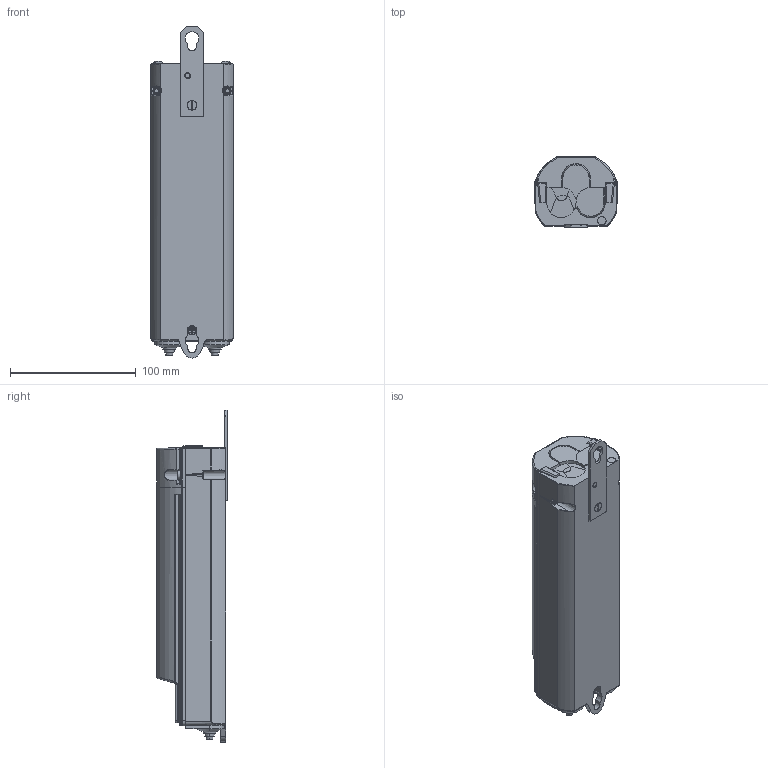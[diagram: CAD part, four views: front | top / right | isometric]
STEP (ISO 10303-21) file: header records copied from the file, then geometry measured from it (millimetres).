
FILE_DESCRIPTION (( 'STEP AP203' ), '1' );
FILE_NAME ('3D - HSW1921 Außenkontur.STEP', '2019-07-17T11:28:36', ( '' ), ( '' ), 'SwSTEP 2.0', 'SolidWorks 2013', '' );
FILE_SCHEMA (( 'CONFIG_CONTROL_DESIGN' ));
Length unit declared in the file: millimetre
Products named in the file (1): 3D - HSW1921 Außenkontur
Bounding box: 65.5 x 56 x 263.79 mm (x, y, z)
Surface area: 63821.9 mm2 (no closed solid volume)
Topology: 0 solids, 20 shells, 501 faces, 1567 edges, 1048 vertices
Faces by surface type: plane 188, cylinder 149, bspline 74, cone 46, torus 36, sphere 8
Entity records: 19761 total; most frequent: CARTESIAN_POINT 6806, ORIENTED_EDGE 2617, DIRECTION 2574, EDGE_CURVE 1551, VERTEX_POINT 1048, AXIS2_PLACEMENT_3D 903, VECTOR 768, LINE 768
